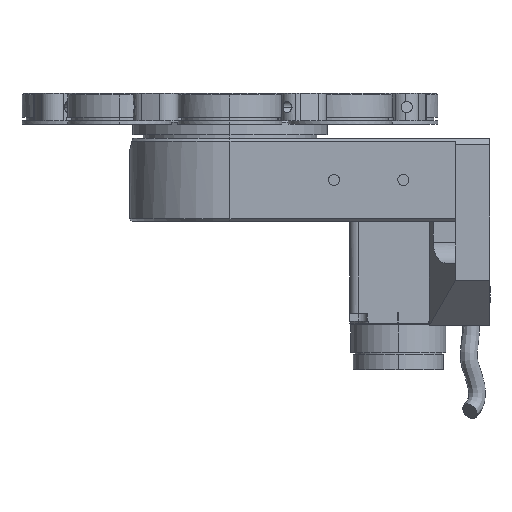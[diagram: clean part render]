
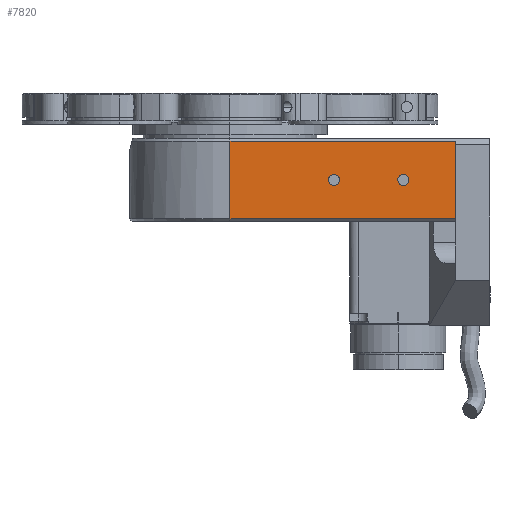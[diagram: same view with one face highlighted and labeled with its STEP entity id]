
A CAD part, left-side view. The second image highlights one B-rep face of the part: STEP entity #7820.
In plain terms, the highlighted planar face has unit normal (-1, 0, 0).
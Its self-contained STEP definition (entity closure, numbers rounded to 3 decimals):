
#168 = EDGE_CURVE ( 'NONE', #169, #171, #11037, .T. ) ;
#169 = VERTEX_POINT ( 'NONE', #11096 ) ;
#171 = VERTEX_POINT ( 'NONE', #11095 ) ;
#288 = EDGE_CURVE ( 'NONE', #292, #297, #11280, .T. ) ;
#292 = VERTEX_POINT ( 'NONE', #11269 ) ;
#297 = VERTEX_POINT ( 'NONE', #11261 ) ;
#7032 = EDGE_CURVE ( 'NONE', #7033, #7064, #24324, .T. ) ;
#7033 = VERTEX_POINT ( 'NONE', #24320 ) ;
#7039 = EDGE_CURVE ( 'NONE', #171, #169, #24364, .T. ) ;
#7046 = EDGE_CURVE ( 'NONE', #297, #292, #24358, .T. ) ;
#7064 = VERTEX_POINT ( 'NONE', #24333 ) ;
#7796 = ORIENTED_EDGE ( 'NONE', *, *, #7797, .F. ) ;
#7797 = EDGE_CURVE ( 'NONE', #7798, #7810, #25402, .T. ) ;
#7798 = VERTEX_POINT ( 'NONE', #25459 ) ;
#7799 = ORIENTED_EDGE ( 'NONE', *, *, #7800, .F. ) ;
#7800 = EDGE_CURVE ( 'NONE', #7033, #7798, #25458, .T. ) ;
#7801 = ORIENTED_EDGE ( 'NONE', *, *, #7032, .T. ) ;
#7802 = ORIENTED_EDGE ( 'NONE', *, *, #7812, .T. ) ;
#7803 = EDGE_LOOP ( 'NONE', ( #7804, #7805 ) ) ;
#7804 = ORIENTED_EDGE ( 'NONE', *, *, #288, .T. ) ;
#7805 = ORIENTED_EDGE ( 'NONE', *, *, #7046, .T. ) ;
#7806 = EDGE_LOOP ( 'NONE', ( #7807, #7808 ) ) ;
#7807 = ORIENTED_EDGE ( 'NONE', *, *, #168, .T. ) ;
#7808 = ORIENTED_EDGE ( 'NONE', *, *, #7039, .T. ) ;
#7810 = VERTEX_POINT ( 'NONE', #25449 ) ;
#7812 = EDGE_CURVE ( 'NONE', #7064, #7810, #25448, .T. ) ;
#7820 = ADVANCED_FACE ( 'NONE', ( #25433, #25432, #25431 ), #25430, .T. ) ;
#7821 = EDGE_LOOP ( 'NONE', ( #7796, #7799, #7801, #7802 ) ) ;
#11033 = DIRECTION ( 'NONE',  ( 0., -1., 0. ) ) ;
#11034 = DIRECTION ( 'NONE',  ( 1., 0., 0. ) ) ;
#11035 = CARTESIAN_POINT ( 'NONE',  ( -41.012, -59.568, 12. ) ) ;
#11036 = AXIS2_PLACEMENT_3D ( 'NONE', #11035, #11034, #11033 ) ;
#11037 = CIRCLE ( 'NONE', #11036, 1.621 ) ;
#11095 = CARTESIAN_POINT ( 'NONE',  ( -41.012, -57.947, 12. ) ) ;
#11096 = CARTESIAN_POINT ( 'NONE',  ( -41.012, -61.189, 12. ) ) ;
#11261 = CARTESIAN_POINT ( 'NONE',  ( -41.012, -37.947, 12. ) ) ;
#11269 = CARTESIAN_POINT ( 'NONE',  ( -41.012, -41.189, 12. ) ) ;
#11276 = DIRECTION ( 'NONE',  ( 0., -1., 0. ) ) ;
#11277 = DIRECTION ( 'NONE',  ( 1., 0., 0. ) ) ;
#11278 = CARTESIAN_POINT ( 'NONE',  ( -41.012, -39.568, 12. ) ) ;
#11279 = AXIS2_PLACEMENT_3D ( 'NONE', #11278, #11277, #11276 ) ;
#11280 = CIRCLE ( 'NONE', #11279, 1.621 ) ;
#24297 = CARTESIAN_POINT ( 'NONE',  ( -41.012, -59.568, 12. ) ) ;
#24320 = CARTESIAN_POINT ( 'NONE',  ( -41.012, -74.568, 23.2 ) ) ;
#24321 = DIRECTION ( 'NONE',  ( 0., 1., 0. ) ) ;
#24322 = VECTOR ( 'NONE', #24321, 1000. ) ;
#24323 = CARTESIAN_POINT ( 'NONE',  ( -41.012, -74.568, 23.2 ) ) ;
#24324 = LINE ( 'NONE', #24323, #24322 ) ;
#24333 = CARTESIAN_POINT ( 'NONE',  ( -41.012, -9.568, 23.2 ) ) ;
#24350 = DIRECTION ( 'NONE',  ( 0., -1., 0. ) ) ;
#24351 = DIRECTION ( 'NONE',  ( 1., 0., 0. ) ) ;
#24352 = CARTESIAN_POINT ( 'NONE',  ( -41.012, -39.568, 12. ) ) ;
#24353 = AXIS2_PLACEMENT_3D ( 'NONE', #24352, #24351, #24350 ) ;
#24358 = CIRCLE ( 'NONE', #24353, 1.621 ) ;
#24361 = DIRECTION ( 'NONE',  ( 0., -1., 0. ) ) ;
#24362 = DIRECTION ( 'NONE',  ( 1., 0., 0. ) ) ;
#24363 = AXIS2_PLACEMENT_3D ( 'NONE', #24297, #24362, #24361 ) ;
#24364 = CIRCLE ( 'NONE', #24363, 1.621 ) ;
#25394 = DIRECTION ( 'NONE',  ( 0., 1., 0. ) ) ;
#25395 = VECTOR ( 'NONE', #25394, 1000. ) ;
#25396 = CARTESIAN_POINT ( 'NONE',  ( -41.012, -53.674, 0.8 ) ) ;
#25402 = LINE ( 'NONE', #25396, #25395 ) ;
#25426 = DIRECTION ( 'NONE',  ( 0., -1., 0. ) ) ;
#25427 = DIRECTION ( 'NONE',  ( -1., 0., 0. ) ) ;
#25428 = CARTESIAN_POINT ( 'NONE',  ( -41.012, -74.568, 0. ) ) ;
#25429 = AXIS2_PLACEMENT_3D ( 'NONE', #25428, #25427, #25426 ) ;
#25430 = PLANE ( 'NONE',  #25429 ) ;
#25431 = FACE_BOUND ( 'NONE', #7806, .T. ) ;
#25432 = FACE_BOUND ( 'NONE', #7803, .T. ) ;
#25433 = FACE_OUTER_BOUND ( 'NONE', #7821, .T. ) ;
#25445 = DIRECTION ( 'NONE',  ( 0., 0., -1. ) ) ;
#25446 = VECTOR ( 'NONE', #25445, 1000. ) ;
#25447 = CARTESIAN_POINT ( 'NONE',  ( -41.012, -9.568, 0. ) ) ;
#25448 = LINE ( 'NONE', #25447, #25446 ) ;
#25449 = CARTESIAN_POINT ( 'NONE',  ( -41.012, -9.568, 0.8 ) ) ;
#25455 = DIRECTION ( 'NONE',  ( 0., 0., -1. ) ) ;
#25456 = VECTOR ( 'NONE', #25455, 1000. ) ;
#25457 = CARTESIAN_POINT ( 'NONE',  ( -41.012, -74.568, 11.519 ) ) ;
#25458 = LINE ( 'NONE', #25457, #25456 ) ;
#25459 = CARTESIAN_POINT ( 'NONE',  ( -41.012, -74.568, 0.8 ) ) ;
